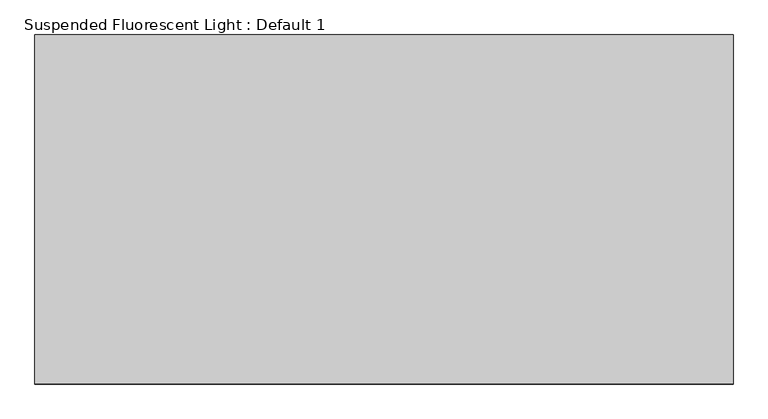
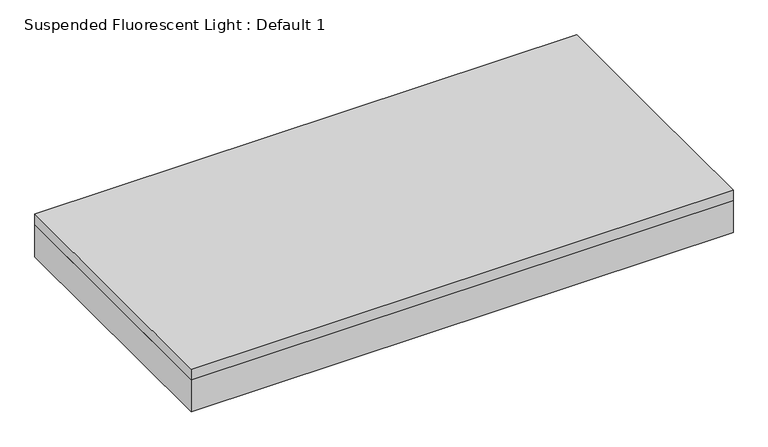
"""IFC4 building model written with IfcOpenShell, lengths in millimetres: light fixture geometry, Suspended Fluorescent Light : Default 1."""

from ifc_helpers import new_model, si_unit, frame, origin, place, context, project, spatial, polyline, outline, extrude, source, transform, mapped, element, save


def suspended_fluorescent_light_default_1_04298bdc(model_context):
    return source(origin(), model_context, "Body", "SweptSolid", [
        extrude(outline(polyline([(-609.6, 304.8), (609.6, 304.8), (609.6, 0.0), (609.6, -304.8), (-609.6, -304.8), (-609.6, 304.8)])), frame((0.0, 0.0, 2057.4), z_axis=(0.0, 0.0, 1.0), x_axis=(1.0, 0.0, 0.0)), (0.0, 0.0, 1.0), 25.4),
        extrude(outline(polyline([(-609.6, 304.8), (609.6, 304.8), (609.6, 0.0), (609.6, -304.8), (-609.6, -304.8), (-609.6, 304.8)])), frame((0.0, 0.0, 1981.2), z_axis=(0.0, 0.0, 1.0), x_axis=(1.0, 0.0, 0.0)), (0.0, 0.0, 1.0), 76.2),
    ])


if __name__ == "__main__":
    model = new_model("IFC4")
    model_context = context("Model", 3, world=origin())
    ifc_project = project(units=[si_unit("LENGTHUNIT", "METRE", prefix="MILLI")], contexts=[model_context])
    site = spatial("IfcSite", under=ifc_project)
    building = spatial("IfcBuilding", under=site)
    placement = place(None, origin())
    suspended_fluorescent_light_default_1_shape = suspended_fluorescent_light_default_1_04298bdc(model_context)
    element("IfcLightFixture", 1, ObjectType="Suspended Fluorescent Light : Default 1", at=placement, inside=building, context=model_context, shape_type="MappedRepresentation", body=[
        mapped(suspended_fluorescent_light_default_1_shape, transform((0.0, 0.0, 0.0), x_axis=(1.0, 0.0, 0.0), y_axis=(0.0, 1.0, 0.0), z_axis=(0.0, 0.0, 1.0))),
    ])
    save(model, "model.ifc")
